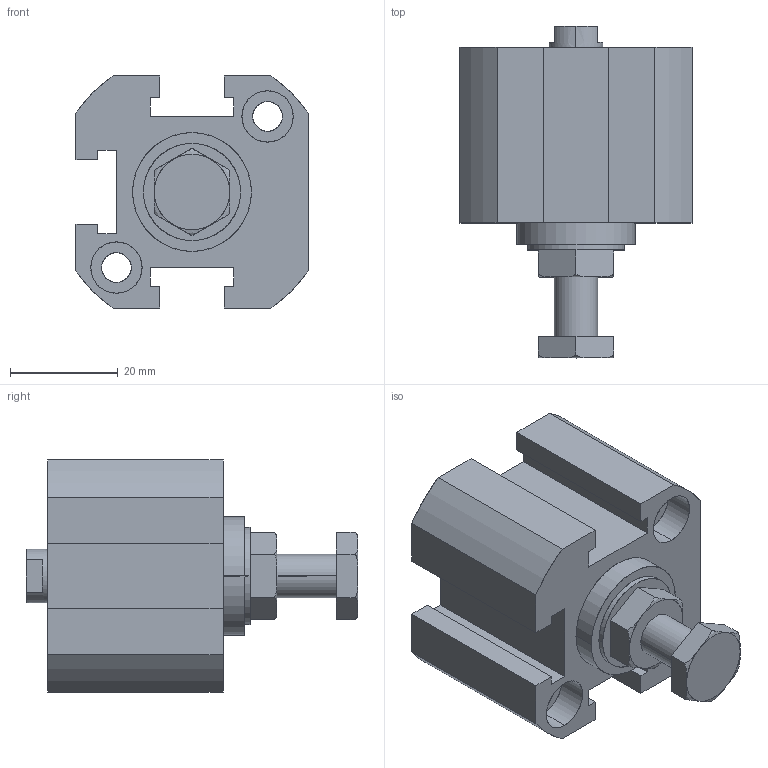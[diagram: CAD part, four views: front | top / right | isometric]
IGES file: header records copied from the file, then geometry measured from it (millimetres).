
Start section: SolidWorks IGES file using analytic representation for surfaces
Global section: file name: C:\Users\Toshiba\Desktop\XCA2-25-10.IGS; native system: SolidWorks 2014; preprocessor: SolidWorks 2014; author: Toshiba; date: 160524.103036; units: millimetre
Bounding box: 43 x 61.5 x 43 mm (x, y, z)
Surface area: 14439 mm2 (no closed solid volume)
Topology: 0 solids, 0 shells, 128 faces, 1966 edges, 1960 vertices
Faces by surface type: bspline 74, revolution 54
